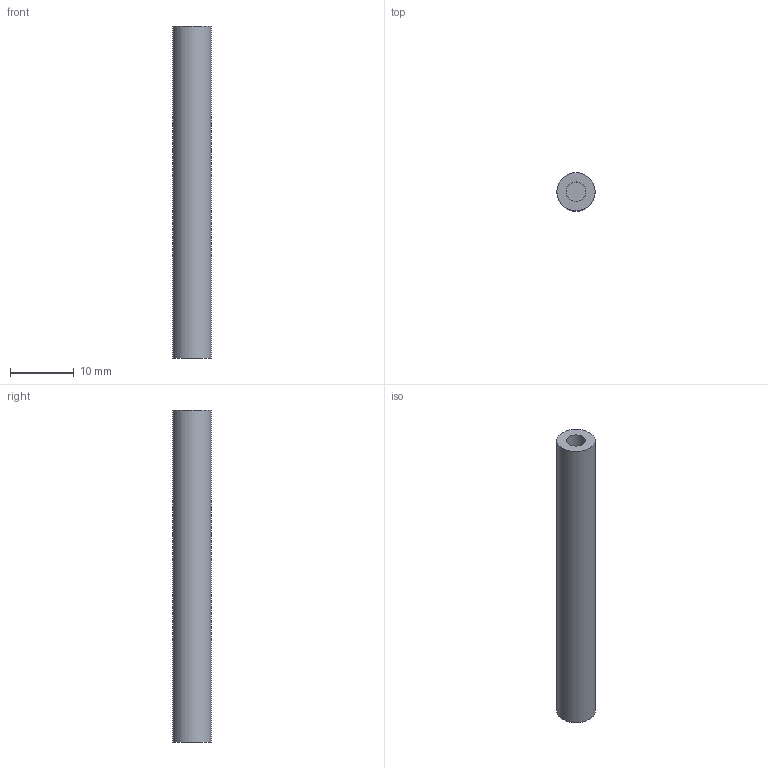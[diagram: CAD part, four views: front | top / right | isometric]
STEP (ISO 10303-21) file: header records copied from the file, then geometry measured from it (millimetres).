
FILE_DESCRIPTION(('FreeCAD Model'),'2;1');
FILE_NAME('Open CASCADE Shape Model','2026-10-23T15:45:24',('FreeCAD'),( 'FreeCAD'),'Open CASCADE STEP processor 7.8','FreeCAD','Unknown');
FILE_SCHEMA(('AUTOMOTIVE_DESIGN { 1 0 10303 214 1 1 1 1 }'));
Length unit declared in the file: millimetre
Products named in the file (1): Open CASCADE STEP translator 7.8 6
Bounding box: 6 x 6 x 52 mm (x, y, z)
Volume: 1353.4 mm3; surface area: 1190 mm2
Topology: 1 solids, 1 shells, 7 faces, 9 edges, 6 vertices
Faces by surface type: plane 4, cylinder 3
Full cylindrical faces by diameter (mm): 3.05 x2, 6 x1
Entity records: 159 total; most frequent: DIRECTION 31, CARTESIAN_POINT 23, ORIENTED_EDGE 18, AXIS2_PLACEMENT_3D 14, FACE_BOUND 9, EDGE_LOOP 9, EDGE_CURVE 9, ADVANCED_FACE 7
